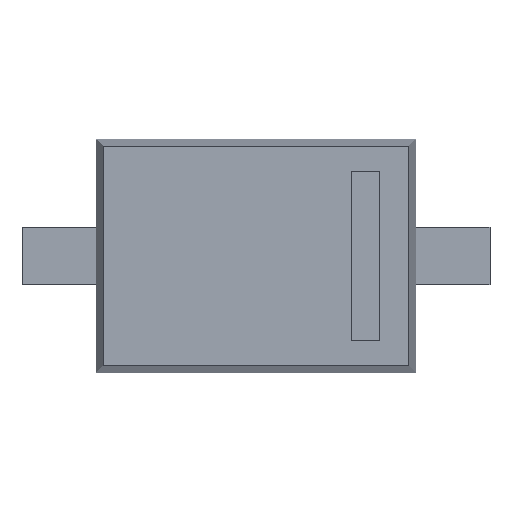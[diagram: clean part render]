
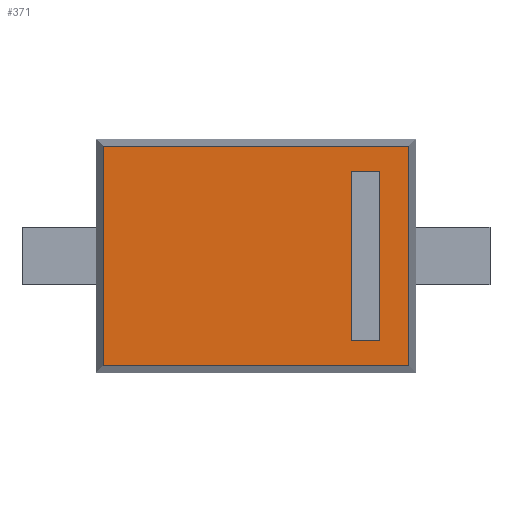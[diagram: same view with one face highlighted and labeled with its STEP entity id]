
A CAD part, top view. The second image highlights one B-rep face of the part: STEP entity #371.
In plain terms, the highlighted planar face has unit normal (0, 0, 1).
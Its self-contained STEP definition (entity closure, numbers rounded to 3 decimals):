
#371=ADVANCED_FACE('',(#377),#372,.T.);
#372=PLANE('',#373);
#373=AXIS2_PLACEMENT_3D('',#374,#375,#376);
#374=CARTESIAN_POINT('',(-0.813,-0.584,0.457));
#375=DIRECTION('',(0.0,0.0,1.0));
#376=DIRECTION('',(0.,1.,0.));
#377=FACE_OUTER_BOUND('',#378,.T.);
#378=EDGE_LOOP('',(#379,#389,#399,#409));
#382=CARTESIAN_POINT('',(0.813,-0.584,0.457));
#381=VERTEX_POINT('',#382);
#384=CARTESIAN_POINT('',(-0.813,-0.584,0.457));
#383=VERTEX_POINT('',#384);
#380=EDGE_CURVE('',#381,#383,#385,.T.);
#385=LINE('',#382,#387);
#387=VECTOR('',#388,1.625);
#388=DIRECTION('',(-1.0,0.0,0.0));
#379=ORIENTED_EDGE('',*,*,#380,.F.);
#392=CARTESIAN_POINT('',(0.813,0.584,0.457));
#391=VERTEX_POINT('',#392);
#390=EDGE_CURVE('',#391,#381,#395,.T.);
#395=LINE('',#392,#397);
#397=VECTOR('',#398,1.168);
#398=DIRECTION('',(0.0,-1.0,0.0));
#389=ORIENTED_EDGE('',*,*,#390,.F.);
#402=CARTESIAN_POINT('',(-0.813,0.584,0.457));
#401=VERTEX_POINT('',#402);
#400=EDGE_CURVE('',#401,#391,#405,.T.);
#405=LINE('',#402,#407);
#407=VECTOR('',#408,1.625);
#408=DIRECTION('',(1.0,0.0,0.0));
#399=ORIENTED_EDGE('',*,*,#400,.F.);
#410=EDGE_CURVE('',#383,#401,#415,.T.);
#415=LINE('',#384,#417);
#417=VECTOR('',#418,1.168);
#418=DIRECTION('',(0.0,1.0,0.0));
#409=ORIENTED_EDGE('',*,*,#410,.F.);
